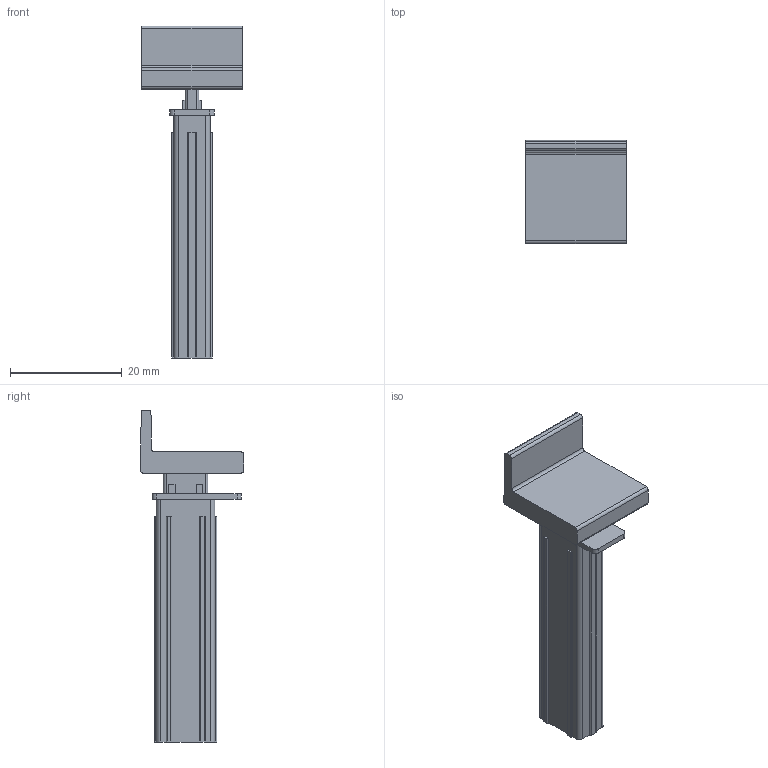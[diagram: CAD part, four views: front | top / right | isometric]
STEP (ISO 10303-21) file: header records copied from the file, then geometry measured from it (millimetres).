
FILE_DESCRIPTION (( 'STEP AP203' ), '1' );
FILE_NAME ('D10010953_S16_01.step', '2025-05-06T08:54:41', ( '' ), ( '' ), 'SwSTEP 2.0', 'SolidWorks 2023', '' );
FILE_SCHEMA (( 'CONFIG_CONTROL_DESIGN' ));
Length unit declared in the file: millimetre
Products named in the file (1): D10010953_S16_01
Bounding box: 18 x 18.55 x 59.5 mm (x, y, z)
Volume: 4758.2 mm3; surface area: 3110.3 mm2
Topology: 1 solids, 1 shells, 93 faces, 264 edges, 176 vertices
Faces by surface type: plane 63, cylinder 26, bspline 4
Entity records: 3099 total; most frequent: CARTESIAN_POINT 586, ORIENTED_EDGE 528, DIRECTION 488, EDGE_CURVE 264, LINE 204, VECTOR 204, VERTEX_POINT 176, AXIS2_PLACEMENT_3D 142
